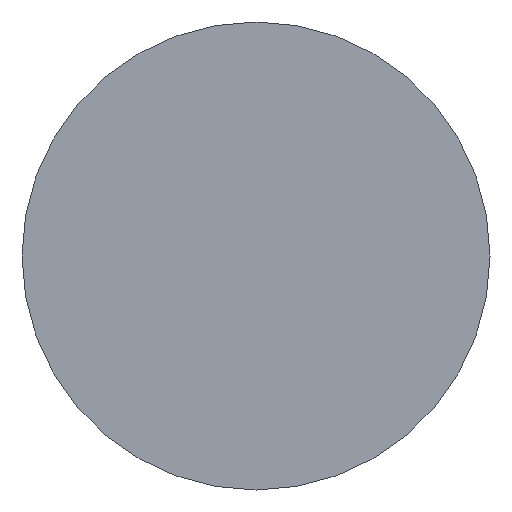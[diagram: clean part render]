
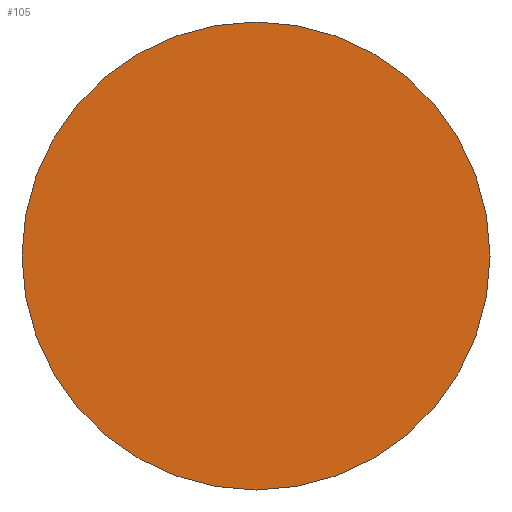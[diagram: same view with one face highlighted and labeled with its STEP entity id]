
A CAD part, front view. The second image highlights one B-rep face of the part: STEP entity #105.
In plain terms, the highlighted planar face has unit normal (0, -1, 0).
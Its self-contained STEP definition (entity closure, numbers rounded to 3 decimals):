
#22 = VERTEX_POINT('',#23);
#23 = CARTESIAN_POINT('',(3.,46.,0.));
#32 = CYLINDRICAL_SURFACE('',#33,3.);
#33 = AXIS2_PLACEMENT_3D('',#34,#35,#36);
#34 = CARTESIAN_POINT('',(0.,46.,0.));
#35 = DIRECTION('',(0.,-1.,-0.));
#36 = DIRECTION('',(1.,0.,0.));
#79 = EDGE_CURVE('',#22,#22,#80,.T.);
#80 = SURFACE_CURVE('',#81,(#86,#93),.PCURVE_S1.);
#81 = CIRCLE('',#82,3.);
#82 = AXIS2_PLACEMENT_3D('',#83,#84,#85);
#83 = CARTESIAN_POINT('',(0.,46.,0.));
#84 = DIRECTION('',(-0.,1.,0.));
#85 = DIRECTION('',(1.,0.,0.));
#86 = PCURVE('',#32,#87);
#87 = DEFINITIONAL_REPRESENTATION('',(#88),#92);
#88 = LINE('',#89,#90);
#89 = CARTESIAN_POINT('',(-0.,0.));
#90 = VECTOR('',#91,1.);
#91 = DIRECTION('',(-1.,0.));
#92 = ( GEOMETRIC_REPRESENTATION_CONTEXT(2) 
PARAMETRIC_REPRESENTATION_CONTEXT() REPRESENTATION_CONTEXT('2D SPACE',''
  ) );
#93 = PCURVE('',#94,#99);
#94 = PLANE('',#95);
#95 = AXIS2_PLACEMENT_3D('',#96,#97,#98);
#96 = CARTESIAN_POINT('',(0.,46.,0.));
#97 = DIRECTION('',(0.,1.,0.));
#98 = DIRECTION('',(0.,-0.,1.));
#99 = DEFINITIONAL_REPRESENTATION('',(#100),#104);
#100 = CIRCLE('',#101,3.);
#101 = AXIS2_PLACEMENT_2D('',#102,#103);
#102 = CARTESIAN_POINT('',(0.,0.));
#103 = DIRECTION('',(0.,1.));
#104 = ( GEOMETRIC_REPRESENTATION_CONTEXT(2) 
PARAMETRIC_REPRESENTATION_CONTEXT() REPRESENTATION_CONTEXT('2D SPACE',''
  ) );
#105 = ADVANCED_FACE('',(#106),#94,.F.);
#106 = FACE_BOUND('',#107,.F.);
#107 = EDGE_LOOP('',(#108));
#108 = ORIENTED_EDGE('',*,*,#79,.T.);
